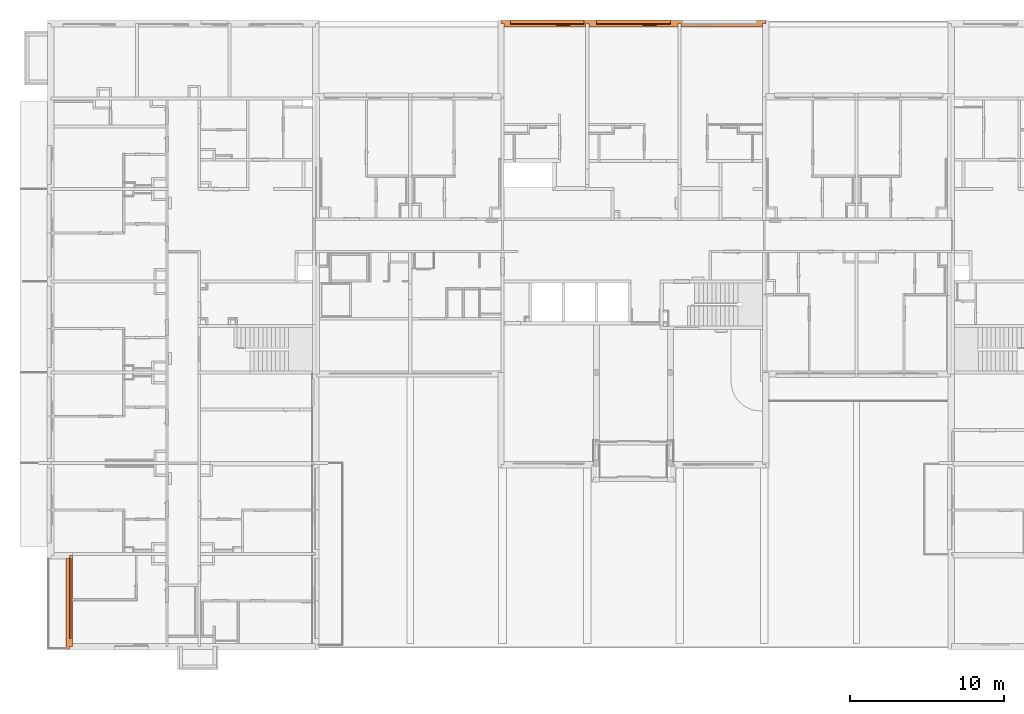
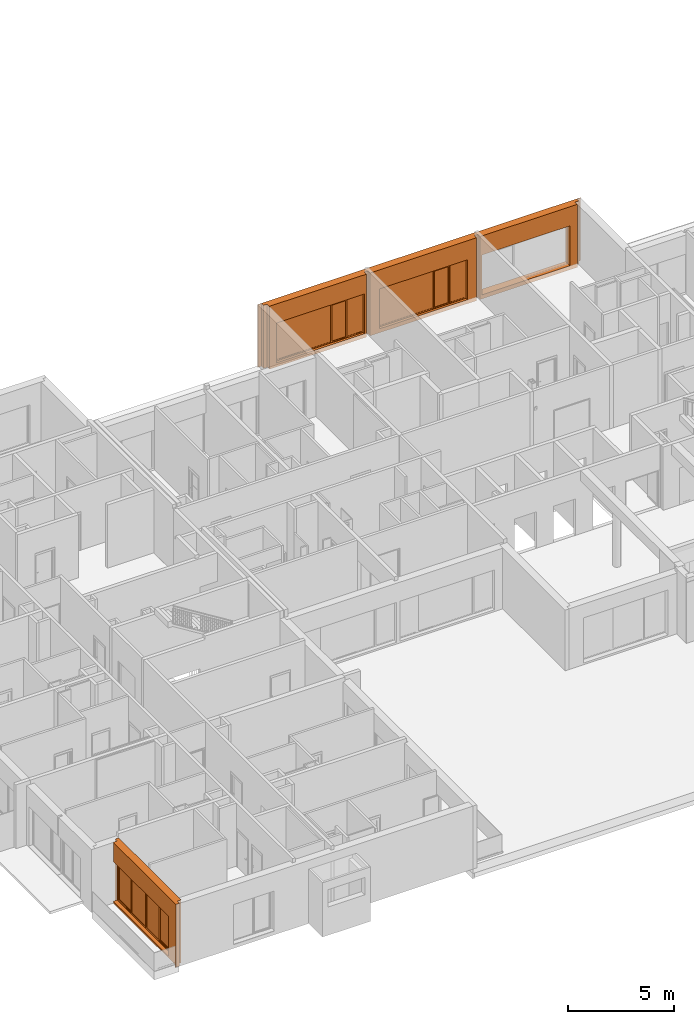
# One storey, part 26 of 46: 6 proxies, 5 openings.
"""IFC2X3 building model written with IfcOpenShell, lengths in millimetres."""

from ifc_helpers import new_model, entity, si_unit, converted_unit, derived_unit, money_unit, direction, frame, origin_with_axes, origin_2d_with_axis, place, context, subcontext, project, spatial, rectangle, extrude, open_shell, faceted_brep, surface_model, source, transform, mapped, material, material_list, type_object, element, fill, save


model = new_model("IFC2X3")

# Units and contexts
model_context = context("Model", 3, precision=0.01, world=origin_with_axes(), true_north=direction((0.34421633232, 0.938890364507)))
body_context = subcontext(model_context, "Body", "Model", "MODEL_VIEW")
ifc_project = project(units=[si_unit("LENGTHUNIT", "METRE", prefix="MILLI"), si_unit("AREAUNIT", "SQUARE_METRE"), si_unit("VOLUMEUNIT", "CUBIC_METRE"), converted_unit("PLANEANGLEUNIT", "DEGREE", entity("IfcPlaneAngleMeasure", 0.0174532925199), si_unit("PLANEANGLEUNIT", "RADIAN"), dimensions=[0, 0, 0, 0, 0, 0, 0]), si_unit("SOLIDANGLEUNIT", "STERADIAN"), money_unit("USD"), converted_unit("TIMEUNIT", "Year", entity("IfcTimeMeasure", 31556926.0), si_unit("TIMEUNIT", "SECOND"), dimensions=[0, 0, 1, 0, 0, 0, 0]), si_unit("MASSUNIT", "GRAM", prefix="KILO"), si_unit("THERMODYNAMICTEMPERATUREUNIT", "DEGREE_CELSIUS"), si_unit("LUMINOUSINTENSITYUNIT", "LUMEN"), si_unit("ENERGYUNIT", "JOULE", prefix="MEGA"), derived_unit("THERMALCONDUCTANCEUNIT", [(si_unit("POWERUNIT", "WATT"), 1), (si_unit("LENGTHUNIT", "METRE"), -1), (si_unit("THERMODYNAMICTEMPERATUREUNIT", "KELVIN"), -1)]), derived_unit("SPECIFICHEATCAPACITYUNIT", [(si_unit("ENERGYUNIT", "JOULE"), 1), (si_unit("MASSUNIT", "GRAM", prefix="KILO"), -1), (si_unit("THERMODYNAMICTEMPERATUREUNIT", "KELVIN"), -1)]), derived_unit("MASSDENSITYUNIT", [(si_unit("MASSUNIT", "GRAM", prefix="KILO"), 1), (si_unit("VOLUMEUNIT", "CUBIC_METRE"), -1)])], contexts=[model_context])

# Site, building, storey
site_placement = place(None, origin_with_axes())
site = spatial("IfcSite", under=ifc_project, at=site_placement, Name="USTRONIE MORSKIE", CompositionType="ELEMENT")
building_placement = place(site_placement, origin_with_axes())
building = spatial("IfcBuilding", under=site, at=building_placement, Name="Budynek", CompositionType="ELEMENT")
storey_placement = place(building_placement, origin_with_axes())
storey = spatial("IfcBuildingStorey", under=building, at=storey_placement, Name="PARTER", CompositionType="ELEMENT", Elevation=0.0)

# Proxies, openings
ifc_material_1 = material(Name="Beton konstrukcyjny B25")
ifc_material_2 = material(Name="Wełna ELEW")
ifc_material_3 = material(Name="Tynk zewnętrzny")
ifc_material_list = material_list([ifc_material_1, ifc_material_2, ifc_material_3])
building_element_proxy_type_1 = type_object("IfcBuildingElementProxyType", Name="20+20 410", PredefinedType="NOTDEFINED")
proxy_1_placement = place(storey_placement, frame((351267.920919, 715101.199036, -230.0), z_axis=(0.0, 0.0, 1.0), x_axis=(0.0, -1.0, 0.0)))
proxy_1 = element("IfcBuildingElementProxy", 1, at=proxy_1_placement, inside=storey, type_object=building_element_proxy_type_1, material=ifc_material_list, Name="SZ-01", context=body_context, shape_type="Brep", body=[
    faceted_brep([(6000.0, -100.0, 0.0), (100.0, -100.0, 0.0), (100.0, 100.0, 0.0), (6000.0, 100.0, 0.0), (6000.0, -100.0, 3630.0), (100.0, -100.0, 3630.0), (100.0, 100.0, 3630.0), (6000.0, 100.0, 3630.0)], [[[0, 1, 2, 3]], [[4, 5, 1, 0]], [[2, 1, 5, 6]], [[3, 2, 6, 7]], [[3, 7, 4, 0]], [[7, 6, 5, 4]]]),
    faceted_brep([(6160.0, -100.0, 129.999999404), (300.0, -100.0, 129.999999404), (300.0, -100.0, 3630.0), (6200.0, -100.0, 3630.0), (6200.0, -100.0, 0.0), (6160.0, -100.0, -5.96047627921e-07), (300.0, -300.0, 129.999999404), (6160.0, -300.0, 129.999999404), (300.0, -300.0, 3630.0), (6200.0, -300.0, 3630.0), (6200.0, -300.0, 0.0), (6160.0, -300.0, -5.96047627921e-07)], [[[0, 1, 2, 3, 4, 5]], [[6, 1, 0, 7]], [[1, 6, 8, 2]], [[9, 3, 2, 8]], [[10, 4, 3, 9]], [[11, 5, 4, 10]], [[7, 0, 5, 11]], [[7, 11, 10, 9, 8, 6]]]),
    faceted_brep([(6160.0, -300.0, 69.999999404), (6160.0, -300.0, 129.999999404), (310.0, -300.0, 129.999999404), (310.0, -300.0, 3630.0), (6210.0, -300.0, 3630.0), (6210.0, -300.0, 0.0), (6160.0, -300.0, -5.96047627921e-07), (6160.0, -300.0, 4.99999940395), (6160.0, -310.0, 69.999999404), (6160.0, -310.0, 129.999999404), (310.0, -310.0, 129.999999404), (310.0, -310.0, 3630.0), (6210.0, -310.0, 3630.0), (6210.0, -310.0, 0.0), (6160.0, -310.0, -5.96047627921e-07), (6160.0, -310.0, 4.99999940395)], [[[0, 1, 2, 3, 4, 5, 6, 7]], [[1, 0, 8, 9]], [[10, 2, 1, 9]], [[2, 10, 11, 3]], [[12, 4, 3, 11]], [[13, 5, 4, 12]], [[14, 6, 5, 13]], [[15, 7, 6, 14]], [[8, 0, 7, 15]], [[9, 8, 15, 14, 13, 12, 11, 10]]]),
])
opening_1_placement = place(proxy_1_placement, frame((4240.0, 0.0, 230.0), z_axis=(0.0, 0.0, 1.0), x_axis=(1.0, 0.0, 0.0)))
opening_1 = element("IfcOpeningElement", 2, at=opening_1_placement, cuts=proxy_1, Name="Wz.04", context=body_context, shape_type="SweptSolid", body=[
    extrude(rectangle(XDim=2520.0, YDim=2300.0, at=origin_2d_with_axis()), frame((0.0, 0.0, 1150.0), z_axis=(0.0, 1.0, 0.0), x_axis=(1.0, 0.0, 0.0)), (0.0, 0.0, -1.0), 720.0),
    extrude(rectangle(XDim=2520.0, YDim=2300.0, at=origin_2d_with_axis()), frame((0.0, 0.0, 1150.0), z_axis=(0.0, -1.0, 0.0), x_axis=(1.0, 0.0, 0.0)), (0.0, 0.0, -1.0), 510.0),
])
opening_2_placement = place(proxy_1_placement, frame((1640.0, 0.0, 230.0), z_axis=(0.0, 0.0, 1.0), x_axis=(1.0, 0.0, 0.0)))
opening_2 = element("IfcOpeningElement", 3, at=opening_2_placement, cuts=proxy_1, Name="Wz.04", context=body_context, shape_type="SweptSolid", body=[
    extrude(rectangle(XDim=2680.0, YDim=2300.0, at=origin_2d_with_axis()), frame((0.0, 0.0, 1150.0), z_axis=(0.0, -1.0, 0.0), x_axis=(-1.0, 0.0, 0.0)), (0.0, 0.0, 1.0), 720.0),
    extrude(rectangle(XDim=2680.0, YDim=2300.0, at=origin_2d_with_axis()), frame((0.0, 0.0, 1150.0), z_axis=(0.0, 1.0, 0.0), x_axis=(-1.0, 0.0, 0.0)), (0.0, 0.0, 1.0), 510.0),
])
building_element_proxy_type_2 = type_object("IfcBuildingElementProxyType", Name="Okno przesuwne, 2-skrzydłowe 23", PredefinedType="NOTDEFINED")
proxy_2_placement = place(opening_1_placement, frame((-1260.0, 0.0, 0.0), z_axis=(0.0, 0.0, 1.0), x_axis=(1.0, 0.0, 0.0)))
proxy_2 = element("IfcBuildingElementProxy", 4, at=proxy_2_placement, inside=storey, type_object=building_element_proxy_type_2, Name="Wz.04", context=body_context, shape_type="SurfaceModel", body=[
    faceted_brep([(50.0000000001, -100.0, 50.0), (50.0000000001, 0.0, 50.0), (50.0000000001, 0.0, 2250.0), (50.0000000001, -100.0, 2250.0), (0.0, -100.0, 50.0), (0.0, 0.0, 50.0), (0.0, 0.0, 2250.0), (0.0, -100.0, 2250.0)], [[[0, 1, 2, 3]], [[4, 5, 1, 0]], [[1, 5, 6, 2]], [[3, 2, 6, 7]], [[0, 3, 7, 4]], [[7, 6, 5, 4]]]),
    faceted_brep([(2520.0, -100.0, 50.0), (2520.0, 0.0, 50.0), (2520.0, 0.0, 2250.0), (2520.0, -100.0, 2250.0), (2470.0, -100.0, 50.0), (2470.0, 0.0, 50.0), (2470.0, 0.0, 2250.0), (2470.0, -100.0, 2250.0)], [[[0, 1, 2, 3]], [[4, 5, 1, 0]], [[1, 5, 6, 2]], [[3, 2, 6, 7]], [[0, 3, 7, 4]], [[7, 6, 5, 4]]]),
    faceted_brep([(2520.0, -100.0, 50.0), (2520.0, 0.0, 50.0), (2470.0, 0.0, 50.0), (2470.0, -100.0, 50.0), (2520.0, -100.0, 0.0), (2520.0, 0.0, 0.0), (0.0, 0.0, 0.0), (0.0, 0.0, 50.0), (50.0000000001, 0.0, 50.0), (50.0000000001, -100.0, 50.0), (0.0, -100.0, 50.0), (0.0, -100.0, 0.0)], [[[0, 1, 2, 3]], [[4, 5, 1, 0]], [[1, 5, 6, 7, 8, 2]], [[3, 2, 8, 9]], [[0, 3, 9, 10, 11, 4]], [[11, 6, 5, 4]], [[10, 7, 6, 11]], [[9, 8, 7, 10]]]),
    faceted_brep([(2520.0, -100.0, 2300.0), (2520.0, 0.0, 2300.0), (0.0, 0.0, 2300.0), (0.0, -100.0, 2300.0), (2520.0, -100.0, 2250.0), (2520.0, 0.0, 2250.0), (2470.0, 0.0, 2250.0), (50.0000000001, 0.0, 2250.0), (0.0, 0.0, 2250.0), (0.0, -100.0, 2250.0), (50.0000000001, -100.0, 2250.0), (2470.0, -100.0, 2250.0)], [[[0, 1, 2, 3]], [[4, 5, 1, 0]], [[1, 5, 6, 7, 8, 2]], [[3, 2, 8, 9]], [[0, 3, 9, 10, 11, 4]], [[11, 6, 5, 4]], [[10, 7, 6, 11]], [[9, 8, 7, 10]]]),
    faceted_brep([(100.0, -100.0, 2200.0), (100.0, -50.0, 2200.0), (50.0000000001, -50.0, 2200.0), (50.0000000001, -100.0, 2200.0), (100.0, -100.0, 100.0), (100.0, -50.0, 100.0), (50.0000000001, -50.0, 100.0), (50.0000000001, -100.0, 100.0)], [[[0, 1, 2, 3]], [[4, 5, 1, 0]], [[1, 5, 6, 2]], [[3, 2, 6, 7]], [[0, 3, 7, 4]], [[7, 6, 5, 4]]]),
    faceted_brep([(1235.0, -100.0, 100.0), (1235.0, -50.0, 100.0), (1285.0, -50.0, 100.0), (1285.0, -100.0, 100.0), (1235.0, -100.0, 2200.0), (1235.0, -50.0, 2200.0), (1285.0, -50.0, 2200.0), (1285.0, -100.0, 2200.0)], [[[0, 1, 2, 3]], [[4, 5, 1, 0]], [[1, 5, 6, 2]], [[3, 2, 6, 7]], [[0, 3, 7, 4]], [[7, 6, 5, 4]]]),
    faceted_brep([(1285.0, -100.0, 50.0), (1285.0, -50.0, 50.0), (1285.0, -50.0, 100.0), (1285.0, -100.0, 100.0), (50.0000000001, -100.0, 50.0), (50.0000000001, -50.0, 50.0), (50.0000000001, -50.0, 100.0), (100.0, -50.0, 100.0), (1235.0, -50.0, 100.0), (1235.0, -100.0, 100.0), (100.0, -100.0, 100.0), (50.0000000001, -100.0, 100.0)], [[[0, 1, 2, 3]], [[4, 5, 1, 0]], [[1, 5, 6, 7, 8, 2]], [[3, 2, 8, 9]], [[0, 3, 9, 10, 11, 4]], [[11, 6, 5, 4]], [[10, 7, 6, 11]], [[9, 8, 7, 10]]]),
    faceted_brep([(50.0000000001, -100.0, 2250.0), (50.0000000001, -50.0, 2250.0), (50.0000000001, -50.0, 2200.0), (50.0000000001, -100.0, 2200.0), (1285.0, -100.0, 2250.0), (1285.0, -50.0, 2250.0), (1285.0, -50.0, 2200.0), (1235.0, -50.0, 2200.0), (100.0, -50.0, 2200.0), (100.0, -100.0, 2200.0), (1235.0, -100.0, 2200.0), (1285.0, -100.0, 2200.0)], [[[0, 1, 2, 3]], [[4, 5, 1, 0]], [[1, 5, 6, 7, 8, 2]], [[3, 2, 8, 9]], [[0, 3, 9, 10, 11, 4]], [[11, 6, 5, 4]], [[10, 7, 6, 11]], [[9, 8, 7, 10]]]),
    surface_model("IfcShellBasedSurfaceModel", [(100.0, -85.0, 100.0), (1235.0, -85.0, 100.0), (1235.0, -85.0, 2200.0), (100.0, -85.0, 2200.0)], [open_shell([[[0, 1, 2, 3]]])]),
    surface_model("IfcShellBasedSurfaceModel", [(100.0, -65.0, 100.0), (100.0, -65.0, 2200.0), (1235.0, -65.0, 2200.0), (1235.0, -65.0, 100.0)], [open_shell([[[0, 1, 2, 3]]])]),
    faceted_brep([(1285.0, -50.0, 2200.0), (1285.0, 0.0, 2200.0), (1235.0, 0.0, 2200.0), (1235.0, -50.0, 2200.0), (1285.0, -50.0, 100.0), (1285.0, 0.0, 100.0), (1235.0, 0.0, 100.0), (1235.0, -50.0, 100.0)], [[[0, 1, 2, 3]], [[4, 5, 1, 0]], [[1, 5, 6, 2]], [[3, 2, 6, 7]], [[0, 3, 7, 4]], [[7, 6, 5, 4]]]),
    faceted_brep([(2420.0, -50.0, 100.0), (2420.0, 0.0, 100.0), (2470.0, 0.0, 100.0), (2470.0, -50.0, 100.0), (2420.0, -50.0, 2200.0), (2420.0, 0.0, 2200.0), (2470.0, 0.0, 2200.0), (2470.0, -50.0, 2200.0)], [[[0, 1, 2, 3]], [[4, 5, 1, 0]], [[1, 5, 6, 2]], [[3, 2, 6, 7]], [[0, 3, 7, 4]], [[7, 6, 5, 4]]]),
    faceted_brep([(2470.0, -50.0, 50.0), (2470.0, 0.0, 50.0), (2470.0, 0.0, 100.0), (2470.0, -50.0, 100.0), (1235.0, -50.0, 50.0), (1235.0, 0.0, 50.0), (1235.0, 0.0, 100.0), (1285.0, 0.0, 100.0), (2420.0, 0.0, 100.0), (2420.0, -50.0, 100.0), (1285.0, -50.0, 100.0), (1235.0, -50.0, 100.0)], [[[0, 1, 2, 3]], [[4, 5, 1, 0]], [[1, 5, 6, 7, 8, 2]], [[3, 2, 8, 9]], [[0, 3, 9, 10, 11, 4]], [[11, 6, 5, 4]], [[10, 7, 6, 11]], [[9, 8, 7, 10]]]),
    faceted_brep([(1235.0, -50.0, 2250.0), (1235.0, 0.0, 2250.0), (1235.0, 0.0, 2200.0), (1235.0, -50.0, 2200.0), (2470.0, -50.0, 2250.0), (2470.0, 0.0, 2250.0), (2470.0, 0.0, 2200.0), (2420.0, 0.0, 2200.0), (1285.0, 0.0, 2200.0), (1285.0, -50.0, 2200.0), (2420.0, -50.0, 2200.0), (2470.0, -50.0, 2200.0)], [[[0, 1, 2, 3]], [[4, 5, 1, 0]], [[1, 5, 6, 7, 8, 2]], [[3, 2, 8, 9]], [[0, 3, 9, 10, 11, 4]], [[11, 6, 5, 4]], [[10, 7, 6, 11]], [[9, 8, 7, 10]]]),
    surface_model("IfcShellBasedSurfaceModel", [(1285.0, -35.0, 100.0), (2420.0, -35.0, 100.0), (2420.0, -35.0, 2200.0), (1285.0, -35.0, 2200.0)], [open_shell([[[0, 1, 2, 3]]])]),
    surface_model("IfcShellBasedSurfaceModel", [(1285.0, -15.0, 100.0), (1285.0, -15.0, 2200.0), (2420.0, -15.0, 2200.0), (2420.0, -15.0, 100.0)], [open_shell([[[0, 1, 2, 3]]])]),
])
fill(opening_1, proxy_2)
proxy_3_placement = place(opening_2_placement, frame((-1340.0, 0.0, 0.0), z_axis=(0.0, 0.0, 1.0), x_axis=(1.0, 0.0, 0.0)))
proxy_3 = element("IfcBuildingElementProxy", 5, at=proxy_3_placement, inside=storey, type_object=building_element_proxy_type_2, Name="Wz.04", context=body_context, shape_type="SurfaceModel", body=[
    faceted_brep([(2630.0, -100.0, 50.0), (2630.0, -100.0, 2250.0), (2630.0, 0.0, 2250.0), (2630.0, 0.0, 50.0), (2680.0, -100.0, 50.0), (2680.0, -100.0, 2250.0), (2680.0, 0.0, 2250.0), (2680.0, 0.0, 50.0)], [[[0, 1, 2, 3]], [[0, 4, 5, 1]], [[1, 5, 6, 2]], [[3, 2, 6, 7]], [[4, 0, 3, 7]], [[5, 4, 7, 6]]]),
    faceted_brep([(0.0, -100.0, 50.0), (0.0, -100.0, 2250.0), (0.0, 0.0, 2250.0), (0.0, 0.0, 50.0), (50.0, -100.0, 50.0), (50.0, -100.0, 2250.0), (50.0, 0.0, 2250.0), (50.0, 0.0, 50.0)], [[[0, 1, 2, 3]], [[0, 4, 5, 1]], [[1, 5, 6, 2]], [[3, 2, 6, 7]], [[4, 0, 3, 7]], [[5, 4, 7, 6]]]),
    faceted_brep([(0.0, -100.0, 50.0), (50.0, -100.0, 50.0), (50.0, 0.0, 50.0), (0.0, 0.0, 50.0), (0.0, -100.0, 0.0), (2680.0, -100.0, 0.0), (2680.0, -100.0, 50.0), (2630.0, -100.0, 50.0), (2630.0, 0.0, 50.0), (2680.0, 0.0, 50.0), (2680.0, 0.0, 0.0), (0.0, 0.0, 0.0)], [[[0, 1, 2, 3]], [[0, 4, 5, 6, 7, 1]], [[1, 7, 8, 2]], [[3, 2, 8, 9, 10, 11]], [[4, 0, 3, 11]], [[5, 4, 11, 10]], [[6, 5, 10, 9]], [[7, 6, 9, 8]]]),
    faceted_brep([(0.0, -100.0, 2300.0), (2680.0, -100.0, 2300.0), (2680.0, 0.0, 2300.0), (0.0, 0.0, 2300.0), (0.0, -100.0, 2250.0), (50.0, -100.0, 2250.0), (2630.0, -100.0, 2250.0), (2680.0, -100.0, 2250.0), (2680.0, 0.0, 2250.0), (2630.0, 0.0, 2250.0), (50.0, 0.0, 2250.0), (0.0, 0.0, 2250.0)], [[[0, 1, 2, 3]], [[0, 4, 5, 6, 7, 1]], [[1, 7, 8, 2]], [[3, 2, 8, 9, 10, 11]], [[4, 0, 3, 11]], [[5, 4, 11, 10]], [[6, 5, 10, 9]], [[7, 6, 9, 8]]]),
    faceted_brep([(2580.0, -100.0, 2200.0), (2630.0, -100.0, 2200.0), (2630.0, -50.0, 2200.0), (2580.0, -50.0, 2200.0), (2580.0, -100.0, 100.0), (2630.0, -100.0, 100.0), (2630.0, -50.0, 100.0), (2580.0, -50.0, 100.0)], [[[0, 1, 2, 3]], [[0, 4, 5, 1]], [[1, 5, 6, 2]], [[3, 2, 6, 7]], [[4, 0, 3, 7]], [[5, 4, 7, 6]]]),
    faceted_brep([(1365.0, -100.0, 100.0), (1315.0, -100.0, 100.0), (1315.0, -50.0, 100.0), (1365.0, -50.0, 100.0), (1365.0, -100.0, 2200.0), (1315.0, -100.0, 2200.0), (1315.0, -50.0, 2200.0), (1365.0, -50.0, 2200.0)], [[[0, 1, 2, 3]], [[0, 4, 5, 1]], [[1, 5, 6, 2]], [[3, 2, 6, 7]], [[4, 0, 3, 7]], [[5, 4, 7, 6]]]),
    faceted_brep([(1315.0, -100.0, 50.0), (1315.0, -100.0, 100.0), (1315.0, -50.0, 100.0), (1315.0, -50.0, 50.0), (2630.0, -100.0, 50.0), (2630.0, -100.0, 100.0), (2580.0, -100.0, 100.0), (1365.0, -100.0, 100.0), (1365.0, -50.0, 100.0), (2580.0, -50.0, 100.0), (2630.0, -50.0, 100.0), (2630.0, -50.0, 50.0)], [[[0, 1, 2, 3]], [[0, 4, 5, 6, 7, 1]], [[1, 7, 8, 2]], [[3, 2, 8, 9, 10, 11]], [[4, 0, 3, 11]], [[5, 4, 11, 10]], [[6, 5, 10, 9]], [[7, 6, 9, 8]]]),
    faceted_brep([(2630.0, -100.0, 2250.0), (2630.0, -100.0, 2200.0), (2630.0, -50.0, 2200.0), (2630.0, -50.0, 2250.0), (1315.0, -100.0, 2250.0), (1315.0, -100.0, 2200.0), (1365.0, -100.0, 2200.0), (2580.0, -100.0, 2200.0), (2580.0, -50.0, 2200.0), (1365.0, -50.0, 2200.0), (1315.0, -50.0, 2200.0), (1315.0, -50.0, 2250.0)], [[[0, 1, 2, 3]], [[0, 4, 5, 6, 7, 1]], [[1, 7, 8, 2]], [[3, 2, 8, 9, 10, 11]], [[4, 0, 3, 11]], [[5, 4, 11, 10]], [[6, 5, 10, 9]], [[7, 6, 9, 8]]]),
    surface_model("IfcShellBasedSurfaceModel", [(2580.0, -85.0, 100.0), (2580.0, -85.0, 2200.0), (1365.0, -85.0, 2200.0), (1365.0, -85.0, 100.0)], [open_shell([[[0, 1, 2, 3]]])]),
    surface_model("IfcShellBasedSurfaceModel", [(2580.0, -65.0, 100.0), (1365.0, -65.0, 100.0), (1365.0, -65.0, 2200.0), (2580.0, -65.0, 2200.0)], [open_shell([[[0, 1, 2, 3]]])]),
    faceted_brep([(1315.0, -50.0, 2200.0), (1365.0, -50.0, 2200.0), (1365.0, 0.0, 2200.0), (1315.0, 0.0, 2200.0), (1315.0, -50.0, 100.0), (1365.0, -50.0, 100.0), (1365.0, 0.0, 100.0), (1315.0, 0.0, 100.0)], [[[0, 1, 2, 3]], [[0, 4, 5, 1]], [[1, 5, 6, 2]], [[3, 2, 6, 7]], [[4, 0, 3, 7]], [[5, 4, 7, 6]]]),
    faceted_brep([(100.0, -50.0, 100.0), (50.0, -50.0, 100.0), (50.0, 0.0, 100.0), (100.0, 0.0, 100.0), (100.0, -50.0, 2200.0), (50.0, -50.0, 2200.0), (50.0, 0.0, 2200.0), (100.0, 0.0, 2200.0)], [[[0, 1, 2, 3]], [[0, 4, 5, 1]], [[1, 5, 6, 2]], [[3, 2, 6, 7]], [[4, 0, 3, 7]], [[5, 4, 7, 6]]]),
    faceted_brep([(50.0, -50.0, 50.0), (50.0, -50.0, 100.0), (50.0, 0.0, 100.0), (50.0, 0.0, 50.0), (1365.0, -50.0, 50.0), (1365.0, -50.0, 100.0), (1315.0, -50.0, 100.0), (100.0, -50.0, 100.0), (100.0, 0.0, 100.0), (1315.0, 0.0, 100.0), (1365.0, 0.0, 100.0), (1365.0, 0.0, 50.0)], [[[0, 1, 2, 3]], [[0, 4, 5, 6, 7, 1]], [[1, 7, 8, 2]], [[3, 2, 8, 9, 10, 11]], [[4, 0, 3, 11]], [[5, 4, 11, 10]], [[6, 5, 10, 9]], [[7, 6, 9, 8]]]),
    faceted_brep([(1365.0, -50.0, 2250.0), (1365.0, -50.0, 2200.0), (1365.0, 0.0, 2200.0), (1365.0, 0.0, 2250.0), (50.0, -50.0, 2250.0), (50.0, -50.0, 2200.0), (100.0, -50.0, 2200.0), (1315.0, -50.0, 2200.0), (1315.0, 0.0, 2200.0), (100.0, 0.0, 2200.0), (50.0, 0.0, 2200.0), (50.0, 0.0, 2250.0)], [[[0, 1, 2, 3]], [[0, 4, 5, 6, 7, 1]], [[1, 7, 8, 2]], [[3, 2, 8, 9, 10, 11]], [[4, 0, 3, 11]], [[5, 4, 11, 10]], [[6, 5, 10, 9]], [[7, 6, 9, 8]]]),
    surface_model("IfcShellBasedSurfaceModel", [(1315.0, -35.0, 100.0), (1315.0, -35.0, 2200.0), (100.0, -35.0, 2200.0), (100.0, -35.0, 100.0)], [open_shell([[[0, 1, 2, 3]]])]),
    surface_model("IfcShellBasedSurfaceModel", [(1315.0, -15.0, 100.0), (100.0, -15.0, 100.0), (100.0, -15.0, 2200.0), (1315.0, -15.0, 2200.0)], [open_shell([[[0, 1, 2, 3]]])]),
])
fill(opening_2, proxy_3)

proxy_4_placement = place(storey_placement, frame((396317.920919, 749451.199036, -230.0), z_axis=(0.0, 0.0, 1.0), x_axis=(-1.0, 0.0, 0.0)))
proxy_4 = element("IfcBuildingElementProxy", 6, at=proxy_4_placement, inside=storey, type_object=building_element_proxy_type_1, material=ifc_material_list, Name="SZ-01", context=body_context, shape_type="Brep", body=[
    faceted_brep([(5400.0, -100.0, 0.0), (100.0, -100.0, 0.0), (100.0, 100.0, 0.0), (5400.0, 100.0, 0.0), (5400.0, -100.0, 3630.0), (100.0, -100.0, 3630.0), (100.0, 100.0, 3630.0), (5400.0, 100.0, 3630.0)], [[[0, 1, 2, 3]], [[4, 5, 1, 0]], [[2, 1, 5, 6]], [[3, 2, 6, 7]], [[3, 7, 4, 0]], [[7, 6, 5, 4]]]),
    faceted_brep([(11400.0, -100.0, 0.0), (5600.0, -100.0, 0.0), (5600.0, 100.0, 0.0), (11400.0, 100.0, 0.0), (11400.0, -100.0, 3630.0), (5600.0, -100.0, 3630.0), (5600.0, 100.0, 3630.0), (11400.0, 100.0, 3630.0)], [[[0, 1, 2, 3]], [[4, 5, 1, 0]], [[2, 1, 5, 6]], [[3, 2, 6, 7]], [[3, 7, 4, 0]], [[7, 6, 5, 4]]]),
    faceted_brep([(16900.0, -100.0, 0.0), (11600.0, -100.0, 0.0), (11600.0, 100.0, 0.0), (16900.0, 100.0, 0.0), (16900.0, -100.0, 3630.0), (11600.0, -100.0, 3630.0), (11600.0, 100.0, 3630.0), (16900.0, 100.0, 3630.0)], [[[0, 1, 2, 3]], [[4, 5, 1, 0]], [[2, 1, 5, 6]], [[3, 2, 6, 7]], [[3, 7, 4, 0]], [[7, 6, 5, 4]]]),
    faceted_brep([(17100.0, -100.0, 0.0), (17100.0, -300.0, 0.0), (-100.0, -300.0, 0.0), (-100.0, -100.0, 0.0), (17100.0, -100.0, 3630.0), (17100.0, -300.0, 3630.0), (-100.0, -300.0, 3630.0), (-100.0, -100.0, 3630.0)], [[[0, 1, 2, 3]], [[1, 0, 4, 5]], [[1, 5, 6, 2]], [[7, 3, 2, 6]], [[4, 0, 3, 7]], [[5, 4, 7, 6]]]),
    faceted_brep([(17300.0, -300.0, 0.0), (17300.0, -310.0, 0.0), (-300.0, -310.0, 0.0), (-300.0, -300.0, 0.0), (17300.0, -300.0, 3630.0), (17300.0, -310.0, 3630.0), (-300.0, -310.0, 3630.0), (-300.0, -300.0, 3630.0)], [[[0, 1, 2, 3]], [[1, 0, 4, 5]], [[1, 5, 6, 2]], [[7, 3, 2, 6]], [[4, 0, 3, 7]], [[5, 4, 7, 6]]]),
])
opening_3_placement = place(proxy_4_placement, frame((14100.0, 0.0, 230.0), z_axis=(0.0, 0.0, 1.0), x_axis=(1.0, 0.0, 0.0)))
opening_3 = element("IfcOpeningElement", 7, at=opening_3_placement, cuts=proxy_4, Name="Wz.06", context=body_context, shape_type="SweptSolid", body=[
    extrude(rectangle(XDim=4800.0, YDim=2300.0, at=origin_2d_with_axis()), frame((0.0, -99.9999999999, 1150.0), z_axis=(0.0, -1.0, 0.0), x_axis=(-1.0, 0.0, 0.0)), (0.0, 0.0, 1.0), 620.0),
    extrude(rectangle(XDim=4800.0, YDim=2300.0, at=origin_2d_with_axis()), frame((0.0, -100.0, 1150.0), z_axis=(0.0, 1.0, 0.0), x_axis=(-1.0, 0.0, 0.0)), (0.0, 0.0, 1.0), 610.0),
])
opening_4_placement = place(proxy_4_placement, frame((8500.0, 0.0, 230.0), z_axis=(0.0, 0.0, 1.0), x_axis=(1.0, 0.0, 0.0)))
opening_4 = element("IfcOpeningElement", 8, at=opening_4_placement, cuts=proxy_4, Name="Wz.06", context=body_context, shape_type="SweptSolid", body=[
    extrude(rectangle(XDim=4800.0, YDim=2300.0, at=origin_2d_with_axis()), frame((0.0, -99.9999999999, 1150.0), z_axis=(0.0, -1.0, 0.0), x_axis=(-1.0, 0.0, 0.0)), (0.0, 0.0, 1.0), 620.0),
    extrude(rectangle(XDim=4800.0, YDim=2300.0, at=origin_2d_with_axis()), frame((0.0, -100.0, 1150.0), z_axis=(0.0, 1.0, 0.0), x_axis=(-1.0, 0.0, 0.0)), (0.0, 0.0, 1.0), 610.0),
])
opening_5_placement = place(proxy_4_placement, frame((2899.99286716, 0.0, 230.0), z_axis=(0.0, 0.0, 1.0), x_axis=(1.0, 0.0, 0.0)))
element("IfcOpeningElement", 9, at=opening_5_placement, cuts=proxy_4, Name="Wz.06", context=body_context, shape_type="SweptSolid", body=[
    extrude(rectangle(XDim=4800.0, YDim=2300.0, at=origin_2d_with_axis()), frame((0.0, -99.9999999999, 1150.0), z_axis=(0.0, 1.0, 0.0), x_axis=(1.0, 0.0, 0.0)), (0.0, 0.0, -1.0), 620.0),
    extrude(rectangle(XDim=4800.0, YDim=2300.0, at=origin_2d_with_axis()), frame((0.0, -100.0, 1150.0), z_axis=(0.0, -1.0, 0.0), x_axis=(1.0, 0.0, 0.0)), (0.0, 0.0, -1.0), 610.0),
])
building_element_proxy_type_3 = type_object("IfcBuildingElementProxyType", Name="Okno potrójne 23", PredefinedType="NOTDEFINED")
shared_shape = source(origin_with_axes(), body_context, "Body", "SurfaceModel", [
    faceted_brep([(2400.0, -65.0, 5.0), (2400.0, -65.0, 30.0), (2400.0, -275.0, 18.9943663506), (2400.0, -275.0, 5.0), (-2400.0, -65.0, 5.0), (-2400.0, -65.0, 30.0), (-2400.0, -275.0, 18.9943663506), (-2400.0, -305.0, 17.4221329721), (2400.0, -305.0, 17.4221329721), (2400.0, -305.0, 5.0), (-2400.0, -305.0, 5.0), (-2400.0, -275.0, 5.0)], [[[0, 1, 2, 3]], [[4, 5, 1, 0]], [[1, 5, 6, 7, 8, 2]], [[3, 2, 8, 9]], [[0, 3, 9, 10, 11, 4]], [[11, 6, 5, 4]], [[10, 7, 6, 11]], [[9, 8, 7, 10]]]),
    faceted_brep([(2400.0, -65.0, 0.0), (2400.0, -65.0, 5.0), (2400.0, -275.0, 5.0), (2400.0, -275.0, 0.0), (-2400.0, -65.0, 0.0), (-2400.0, -65.0, 5.0), (-2400.0, -275.0, 5.0), (-2400.0, -275.0, 0.0)], [[[0, 1, 2, 3]], [[4, 5, 1, 0]], [[1, 5, 6, 2]], [[3, 2, 6, 7]], [[0, 3, 7, 4]], [[7, 6, 5, 4]]]),
    faceted_brep([(-1462.5, -25.0, 2230.0), (-1487.5, -25.0, 2230.0), (-1487.5, 0.0, 2230.0), (-1527.5, 0.0, 2230.0), (-1527.5, -65.0, 2230.0), (-1462.5, -65.0, 2230.0), (-1462.5, -25.0, 70.0), (-1487.5, -25.0, 70.0), (-1487.5, 0.0, 70.0), (-1527.5, 0.0, 70.0), (-1527.5, -65.0, 70.0), (-1462.5, -65.0, 70.0)], [[[0, 1, 2, 3, 4, 5]], [[1, 0, 6, 7]], [[8, 2, 1, 7]], [[2, 8, 9, 3]], [[9, 10, 4, 3]], [[10, 11, 5, 4]], [[6, 0, 5, 11]], [[7, 6, 11, 10, 9, 8]]]),
    faceted_brep([(-602.5, 0.0, 2230.0), (-602.5, -25.0, 2230.0), (-627.5, -25.0, 2230.0), (-627.5, -65.0, 2230.0), (-562.5, -65.0, 2230.0), (-562.5, 0.0, 2230.0), (-602.5, 0.0, 70.0), (-602.5, -25.0, 70.0), (-627.5, -25.0, 70.0), (-627.5, -65.0, 70.0), (-562.5, -65.0, 70.0), (-562.5, 0.0, 70.0)], [[[0, 1, 2, 3, 4, 5]], [[1, 0, 6, 7]], [[8, 2, 1, 7]], [[2, 8, 9, 3]], [[4, 3, 9, 10]], [[5, 4, 10, 11]], [[6, 0, 5, 11]], [[7, 6, 11, 10, 9, 8]]]),
    faceted_brep([(-1462.5, -25.0, 70.0), (-1487.5, -25.0, 70.0), (-1487.5, 0.0, 70.0), (-1527.5, 0.0, 70.0), (-1527.5, -65.0, 70.0), (-1462.5, -65.0, 70.0), (-627.5, -25.0, 70.0), (-602.5, -25.0, 70.0), (-602.5, -25.0, 45.0), (-1487.5, -25.0, 45.0), (-1487.5, 0.0, 45.0), (-602.5, 0.0, 45.0), (-602.5, 0.0, 70.0), (-562.5, 0.0, 70.0), (2330.0, 0.0, 70.0), (2400.0, 0.0, 70.0), (2400.0, 0.0, 0.0), (-2400.0, 0.0, 0.0), (-2400.0, 0.0, 70.0), (-2330.0, 0.0, 70.0), (-2330.0, -65.0, 70.0), (2400.0, -65.0, 70.0), (2330.0, -65.0, 70.0), (-562.5, -65.0, 70.0), (-627.5, -65.0, 70.0), (-2400.0, -65.0, 70.0), (-2400.0, -65.0, 0.0), (2400.0, -65.0, 0.0)], [[[0, 1, 2, 3, 4, 5]], [[1, 0, 6, 7, 8, 9]], [[10, 2, 1, 9]], [[11, 12, 13, 14, 15, 16, 17, 18, 19, 3, 2, 10]], [[19, 20, 4, 3]], [[21, 22, 23, 24, 5, 4, 20, 25, 26, 27]], [[6, 0, 5, 24]], [[7, 6, 24, 23, 13, 12]], [[7, 12, 11, 8]], [[11, 10, 9, 8]], [[13, 23, 22, 14]], [[14, 22, 21, 15]], [[15, 21, 27, 16]], [[16, 27, 26, 17]], [[17, 26, 25, 18]], [[18, 25, 20, 19]]]),
    faceted_brep([(-602.5, 0.0, 2230.0), (-602.5, 0.0, 2255.0), (-1487.5, 0.0, 2255.0), (-1487.5, 0.0, 2230.0), (-1527.5, 0.0, 2230.0), (-2330.0, 0.0, 2230.0), (-2400.0, 0.0, 2230.0), (-2400.0, 0.0, 2300.0), (2400.0, 0.0, 2300.0), (2400.0, 0.0, 2230.0), (2330.0, 0.0, 2230.0), (-562.5, 0.0, 2230.0), (-602.5, -25.0, 2230.0), (-602.5, -25.0, 2255.0), (-1487.5, -25.0, 2255.0), (-1487.5, -25.0, 2230.0), (-1462.5, -25.0, 2230.0), (-1462.5, -65.0, 2230.0), (-1527.5, -65.0, 2230.0), (-2330.0, -65.0, 2230.0), (-2400.0, -65.0, 2230.0), (-2400.0, -65.0, 2300.0), (2400.0, -65.0, 2300.0), (2400.0, -65.0, 2230.0), (2330.0, -65.0, 2230.0), (-562.5, -65.0, 2230.0), (-627.5, -65.0, 2230.0), (-627.5, -25.0, 2230.0)], [[[0, 1, 2, 3, 4, 5, 6, 7, 8, 9, 10, 11]], [[1, 0, 12, 13]], [[2, 1, 13, 14]], [[3, 2, 14, 15]], [[15, 16, 17, 18, 4, 3]], [[4, 18, 19, 5]], [[5, 19, 20, 6]], [[6, 20, 21, 7]], [[7, 21, 22, 8]], [[8, 22, 23, 9]], [[9, 23, 24, 10]], [[10, 24, 25, 11]], [[12, 0, 11, 25, 26, 27]], [[16, 15, 14, 13, 12, 27]], [[16, 27, 26, 17]], [[26, 25, 24, 23, 22, 21, 20, 19, 18, 17]]]),
    faceted_brep([(2330.0, -65.0, 2230.0), (2400.0, -65.0, 2230.0), (2400.0, 0.0, 2230.0), (2330.0, 0.0, 2230.0), (2330.0, -65.0, 70.0), (2400.0, -65.0, 70.0), (2400.0, 0.0, 70.0), (2330.0, 0.0, 70.0)], [[[0, 1, 2, 3]], [[0, 4, 5, 1]], [[1, 5, 6, 2]], [[3, 2, 6, 7]], [[4, 0, 3, 7]], [[5, 4, 7, 6]]]),
    faceted_brep([(-2330.0, -65.0, 70.0), (-2400.0, -65.0, 70.0), (-2400.0, 0.0, 70.0), (-2330.0, 0.0, 70.0), (-2330.0, -65.0, 2230.0), (-2400.0, -65.0, 2230.0), (-2400.0, 0.0, 2230.0), (-2330.0, 0.0, 2230.0)], [[[0, 1, 2, 3]], [[0, 4, 5, 1]], [[1, 5, 6, 2]], [[3, 2, 6, 7]], [[4, 0, 3, 7]], [[5, 4, 7, 6]]]),
    surface_model("IfcShellBasedSurfaceModel", [(2330.0, -35.0, 70.0), (2330.0, -35.0, 2230.0), (-562.5, -35.0, 2230.0), (-562.5, -35.0, 70.0)], [open_shell([[[0, 1, 2, 3]]])]),
    surface_model("IfcShellBasedSurfaceModel", [(2330.0, -15.0, 70.0), (-562.5, -15.0, 70.0), (-562.5, -15.0, 2230.0), (2330.0, -15.0, 2230.0)], [open_shell([[[0, 1, 2, 3]]])]),
    faceted_brep([(-667.5, -25.0, 2190.0), (-602.5, -25.0, 2190.0), (-602.5, 40.0, 2190.0), (-667.5, 40.0, 2190.0), (-667.5, -25.0, 110.0), (-602.5, -25.0, 110.0), (-602.5, 40.0, 110.0), (-667.5, 40.0, 110.0)], [[[0, 1, 2, 3]], [[0, 4, 5, 1]], [[1, 5, 6, 2]], [[3, 2, 6, 7]], [[4, 0, 3, 7]], [[5, 4, 7, 6]]]),
    faceted_brep([(-1422.5, -25.0, 110.0), (-1487.5, -25.0, 110.0), (-1487.5, 40.0, 110.0), (-1422.5, 40.0, 110.0), (-1422.5, -25.0, 2190.0), (-1487.5, -25.0, 2190.0), (-1487.5, 40.0, 2190.0), (-1422.5, 40.0, 2190.0)], [[[0, 1, 2, 3]], [[0, 4, 5, 1]], [[1, 5, 6, 2]], [[3, 2, 6, 7]], [[4, 0, 3, 7]], [[5, 4, 7, 6]]]),
    faceted_brep([(-1487.5, -25.0, 45.0), (-1487.5, -25.0, 110.0), (-1487.5, 40.0, 110.0), (-1487.5, 40.0, 45.0), (-602.5, -25.0, 45.0), (-602.5, -25.0, 110.0), (-667.5, -25.0, 110.0), (-1422.5, -25.0, 110.0), (-1422.5, 40.0, 110.0), (-667.5, 40.0, 110.0), (-602.5, 40.0, 110.0), (-602.5, 40.0, 45.0)], [[[0, 1, 2, 3]], [[0, 4, 5, 6, 7, 1]], [[1, 7, 8, 2]], [[3, 2, 8, 9, 10, 11]], [[4, 0, 3, 11]], [[5, 4, 11, 10]], [[6, 5, 10, 9]], [[7, 6, 9, 8]]]),
    faceted_brep([(-602.5, -25.0, 2255.0), (-602.5, -25.0, 2190.0), (-602.5, 40.0, 2190.0), (-602.5, 40.0, 2255.0), (-1487.5, -25.0, 2255.0), (-1487.5, -25.0, 2190.0), (-1422.5, -25.0, 2190.0), (-667.5, -25.0, 2190.0), (-667.5, 40.0, 2190.0), (-1422.5, 40.0, 2190.0), (-1487.5, 40.0, 2190.0), (-1487.5, 40.0, 2255.0)], [[[0, 1, 2, 3]], [[0, 4, 5, 6, 7, 1]], [[1, 7, 8, 2]], [[3, 2, 8, 9, 10, 11]], [[4, 0, 3, 11]], [[5, 4, 11, 10]], [[6, 5, 10, 9]], [[7, 6, 9, 8]]]),
    surface_model("IfcShellBasedSurfaceModel", [(-667.5, -2.5, 110.0), (-667.5, -2.5, 2190.0), (-1422.5, -2.5, 2190.0), (-1422.5, -2.5, 110.0)], [open_shell([[[0, 1, 2, 3]]])]),
    surface_model("IfcShellBasedSurfaceModel", [(-667.5, 17.5, 110.0), (-1422.5, 17.5, 110.0), (-1422.5, 17.5, 2190.0), (-667.5, 17.5, 2190.0)], [open_shell([[[0, 1, 2, 3]]])]),
    surface_model("IfcShellBasedSurfaceModel", [(-1527.5, -35.0, 70.0), (-1527.5, -35.0, 2230.0), (-2330.0, -35.0, 2230.0), (-2330.0, -35.0, 70.0)], [open_shell([[[0, 1, 2, 3]]])]),
    surface_model("IfcShellBasedSurfaceModel", [(-1527.5, -15.0, 70.0), (-2330.0, -15.0, 70.0), (-2330.0, -15.0, 2230.0), (-1527.5, -15.0, 2230.0)], [open_shell([[[0, 1, 2, 3]]])]),
])
proxy_5_placement = place(opening_3_placement, frame((-2400.0, 0.0, 0.0), z_axis=(0.0, 0.0, 1.0), x_axis=(1.0, 0.0, 0.0)))
proxy_5 = element("IfcBuildingElementProxy", 10, at=proxy_5_placement, inside=storey, type_object=building_element_proxy_type_3, Name="Wz.06", context=body_context, shape_type="MappedRepresentation", body=[
    mapped(shared_shape, transform((2400.0, -35.0, 0.0))),
])
fill(opening_3, proxy_5)
proxy_6_placement = place(opening_4_placement, frame((-2400.0, 0.0, 0.0), z_axis=(0.0, 0.0, 1.0), x_axis=(1.0, 0.0, 0.0)))
proxy_6 = element("IfcBuildingElementProxy", 11, at=proxy_6_placement, inside=storey, type_object=building_element_proxy_type_3, Name="Wz.06", context=body_context, shape_type="MappedRepresentation", body=[
    mapped(shared_shape, transform((2400.0, -35.0, 0.0))),
])
fill(opening_4, proxy_6)

save(model, "model.ifc")
